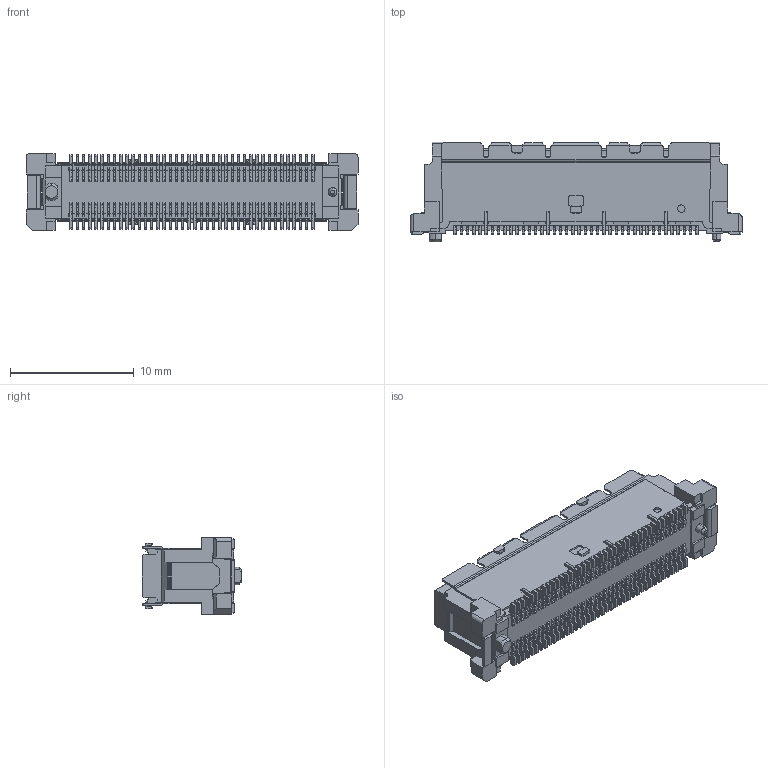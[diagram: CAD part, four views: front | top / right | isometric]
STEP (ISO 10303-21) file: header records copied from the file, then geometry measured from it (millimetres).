
FILE_DESCRIPTION (( 'STEP AP214' ), '1' );
FILE_NAME ('401-55601-5x_3D.STEP', '2018-03-26T11:10:33', ( '' ), ( '' ), 'SwSTEP 2.0', 'SolidWorks 2016', '' );
FILE_SCHEMA (( 'AUTOMOTIVE_DESIGN' ));
Length unit declared in the file: millimetre
Products named in the file (1): 401-55601-5x_3D
Bounding box: 26.8 x 8.05 x 6.2 mm (x, y, z)
Volume: 608 mm3; surface area: 1363.5 mm2
Topology: 1 solids, 1 shells, 4091 faces, 12049 edges, 8015 vertices
Faces by surface type: plane 2669, cylinder 1417, cone 5
Entity records: 181005 total; most frequent: CARTESIAN_POINT 24830, ORIENTED_EDGE 24098, DIRECTION 22662, EDGE_CURVE 12049, LINE 9176, VECTOR 9176, VERTEX_POINT 8015, AXIS2_PLACEMENT_3D 6743
